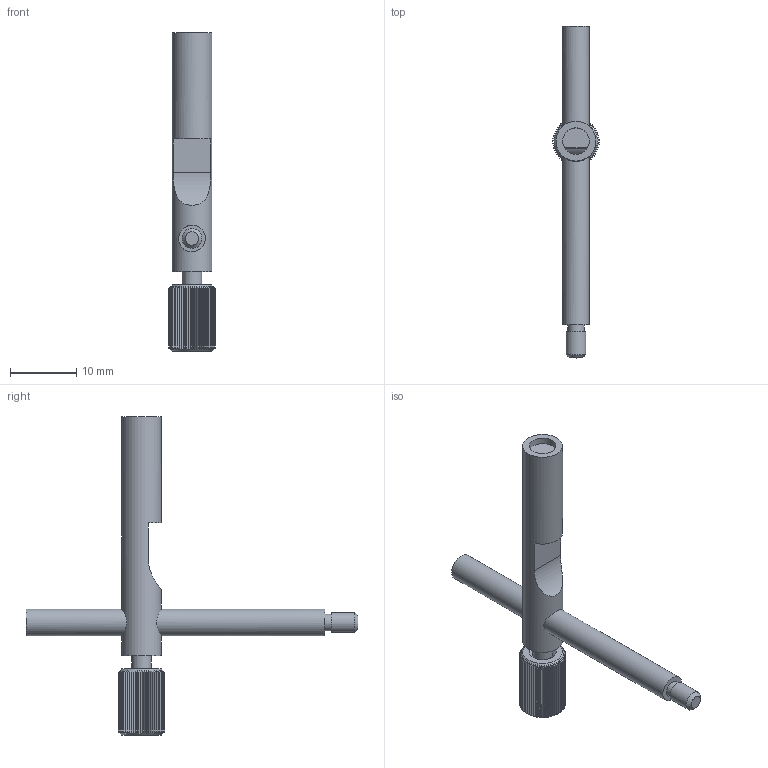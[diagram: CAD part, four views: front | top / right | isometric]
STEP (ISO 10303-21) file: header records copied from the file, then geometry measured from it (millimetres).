
FILE_DESCRIPTION(/* description */ (''),/* implementation_level */ '2;1');
FILE_NAME(/* name */ '5OM122A2.stp',/* time_stamp */ '2026-06-03T08:05:24+03:00',/* author */ ('dsgn33'),/* organization */ (''),/* preprocessor_version */ 'ST-DEVELOPER v20',/* originating_system */ 'Autodesk Inventor 2025',/* authorisation */ '');
FILE_SCHEMA (('AUTOMOTIVE_DESIGN { 1 0 10303 214 3 1 1 }'));
Length unit declared in the file: millimetre
Products named in the file (1): 5OM122A2_Simplify_1
Bounding box: 7 x 50 x 48 mm (x, y, z)
Volume: 1793.3 mm3; surface area: 1878.2 mm2
Topology: 1 solids, 1 shells, 203 faces, 585 edges, 390 vertices
Faces by surface type: plane 131, cylinder 68, cone 4
Full cylindrical faces by diameter (mm): 2.5 x1, 3 x2, 4 x3, 6 x1
Entity records: 6773 total; most frequent: CARTESIAN_POINT 1757, ORIENTED_EDGE 1170, DIRECTION 887, EDGE_CURVE 585, VERTEX_POINT 390, AXIS2_PLACEMENT_3D 344, EDGE_LOOP 211, STYLED_ITEM 204
